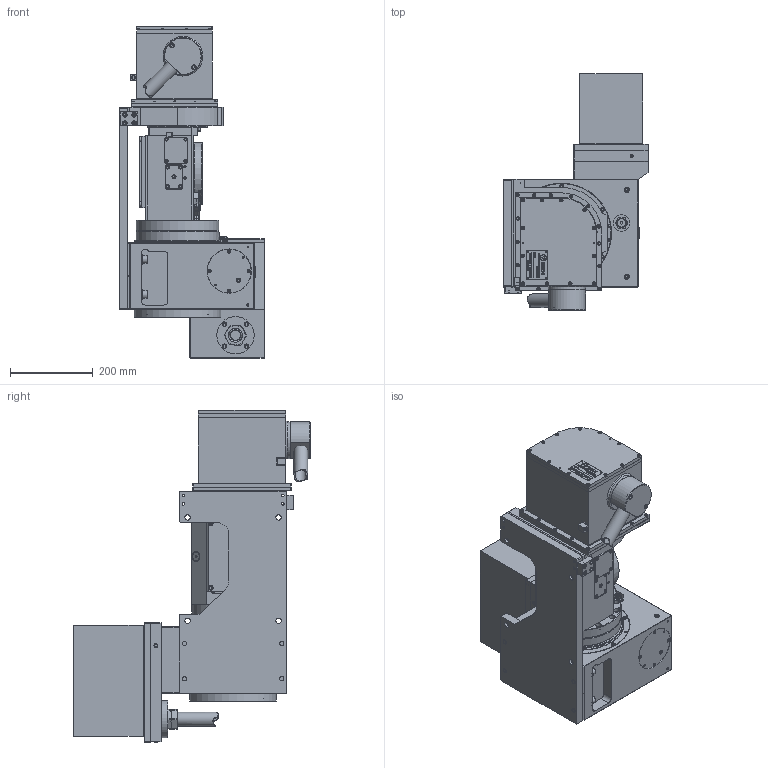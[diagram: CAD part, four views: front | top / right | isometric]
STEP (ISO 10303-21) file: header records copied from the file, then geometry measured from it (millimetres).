
FILE_DESCRIPTION (( 'STEP AP203' ), '1' );
FILE_NAME ('1505961.STEP', '2022-03-28T00:51:12', ( '' ), ( '' ), 'SwSTEP 2.0', 'SolidWorks 2021', '' );
FILE_SCHEMA (( 'CONFIG_CONTROL_DESIGN' ));
Length unit declared in the file: millimetre
Products named in the file (1): 1505961
Bounding box: 350 x 571.5 x 802 mm (x, y, z)
Surface area: 1733131.5 mm2 (no closed solid volume)
Topology: 0 solids, 300 shells, 1375 faces, 5963 edges, 4843 vertices
Faces by surface type: plane 950, cylinder 272, cone 120, torus 24, bspline 8, sphere 1
Full cylindrical faces by diameter (mm): 1.6 x2, 2.5 x3, 3.3 x4, 3.4 x2, 4 x11, 4.2 x2, 4.325 x2, 4.33 x2, 5 x4, 5.02 x4, 5.6 x2, 6 x3, 6.8 x4, 7.22 x5, 7.5 x2, 8 x54, 8.5 x6, 9.5 x10, 10 x6, 10.3 x5, 11 x21, 12 x3, 12.5 x3, 13 x4, 14 x20, 15 x2, 18.27 x4, 19 x4, 20 x1, 23 x3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
Entity records: 66187 total; most frequent: CARTESIAN_POINT 20043, DIRECTION 8780, ORIENTED_EDGE 7224, EDGE_CURVE 5565, VERTEX_POINT 4798, VECTOR 3602, LINE 3602, AXIS2_PLACEMENT_3D 2589
